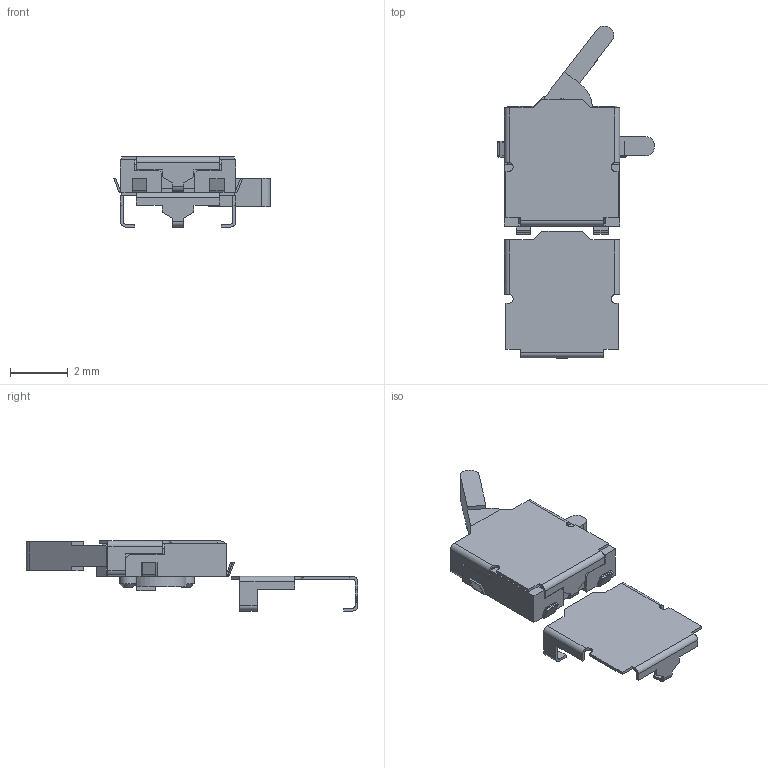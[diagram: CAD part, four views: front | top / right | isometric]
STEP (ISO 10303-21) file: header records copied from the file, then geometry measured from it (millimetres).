
FILE_DESCRIPTION( ( 'Unknown' ), '1' );
FILE_NAME( '//Ntcw022/Edgesv/fsw/ユーザ提出用データ/ﾃﾞｨﾃｸﾀｰｽｲｯﾁ/ESE18/ese18r12b-std-sk.stp', 'Unknown', ( 'Unknown' ), ( 'Unknown' ), 'PSStep 10.0', 'Unknown', ' ' );
FILE_SCHEMA( ( 'AUTOMOTIVE_DESIGN { 1 0 10303 214 1 1 1 1 }' ) );
Length unit declared in the file: millimetre
Products named in the file (8): Assem1; sw-131-e18fm4-sk-1; sw-131-e18ts-j-sk-1; sw-131-e18cs-boss-pc-1; sw-131-e18lv8-sk-1
Bounding box: 5.44 x 11.52 x 2.43 mm (x, y, z)
Volume: 44.9 mm3; surface area: 244.7 mm2
Topology: 14 solids, 14 shells, 354 faces, 960 edges, 640 vertices
Faces by surface type: plane 298, cylinder 50, cone 6
Full cylindrical faces by diameter (mm): 0.6 x6, 0.64 x2
Entity records: 7012 total; most frequent: CARTESIAN_POINT 990, ORIENTED_EDGE 940, DIRECTION 889, EDGE_CURVE 470, LINE 413, VECTOR 413, VERTEX_POINT 317, AXIS2_PLACEMENT_3D 238
